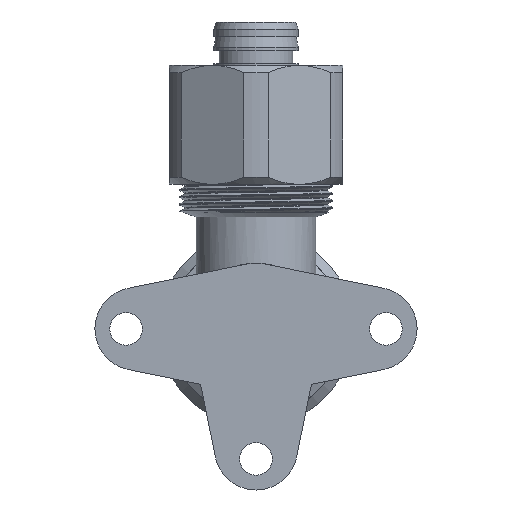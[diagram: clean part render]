
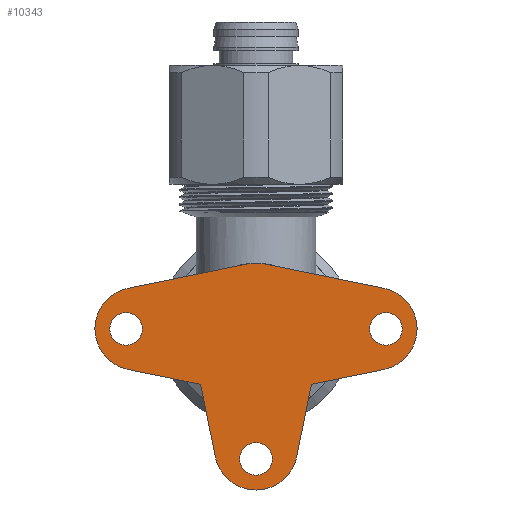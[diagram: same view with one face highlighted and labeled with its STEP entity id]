
A CAD part, front view. The second image highlights one B-rep face of the part: STEP entity #10343.
In plain terms, the highlighted planar face has unit normal (0, -1, 0).
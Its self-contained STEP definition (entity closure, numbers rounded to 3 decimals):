
#355=FACE_BOUND('',#1992,.T.);
#356=FACE_BOUND('',#1993,.T.);
#357=FACE_BOUND('',#1994,.T.);
#422=PLANE('',#11072);
#1387=FACE_OUTER_BOUND('',#1991,.T.);
#1991=EDGE_LOOP('',(#7130,#7131,#7132,#7133,#7134,#7135,#7136,#7137,#7138,
#7139));
#1992=EDGE_LOOP('',(#7140));
#1993=EDGE_LOOP('',(#7141));
#1994=EDGE_LOOP('',(#7142));
#2641=LINE('',#13772,#3325);
#2646=LINE('',#13783,#3330);
#2648=LINE('',#13787,#3332);
#2651=LINE('',#13795,#3335);
#2653=LINE('',#13799,#3337);
#2658=LINE('',#13811,#3342);
#3325=VECTOR('',#11749,10.);
#3330=VECTOR('',#11760,10.);
#3332=VECTOR('',#11764,10.);
#3335=VECTOR('',#11773,10.);
#3337=VECTOR('',#11777,10.);
#3342=VECTOR('',#11788,10.);
#4010=CIRCLE('',#11043,5.75);
#4011=CIRCLE('',#11047,5.75);
#4012=CIRCLE('',#11051,5.75);
#4020=CIRCLE('',#11063,2.25);
#4021=CIRCLE('',#11065,2.25);
#4022=CIRCLE('',#11067,2.25);
#4025=CIRCLE('',#11071,5.75);
#4305=VERTEX_POINT('',#13769);
#4306=VERTEX_POINT('',#13771);
#4308=VERTEX_POINT('',#13777);
#4309=VERTEX_POINT('',#13781);
#4310=VERTEX_POINT('',#13785);
#4311=VERTEX_POINT('',#13789);
#4312=VERTEX_POINT('',#13793);
#4313=VERTEX_POINT('',#13797);
#4314=VERTEX_POINT('',#13801);
#4317=VERTEX_POINT('',#13809);
#4324=VERTEX_POINT('',#13828);
#4325=VERTEX_POINT('',#13832);
#4326=VERTEX_POINT('',#13836);
#5410=EDGE_CURVE('',#4306,#4305,#2641,.T.);
#5414=EDGE_CURVE('',#4305,#4308,#4010,.T.);
#5416=EDGE_CURVE('',#4308,#4309,#2646,.T.);
#5418=EDGE_CURVE('',#4309,#4310,#2648,.T.);
#5420=EDGE_CURVE('',#4310,#4311,#4011,.T.);
#5422=EDGE_CURVE('',#4311,#4312,#2651,.T.);
#5424=EDGE_CURVE('',#4312,#4313,#2653,.T.);
#5426=EDGE_CURVE('',#4313,#4314,#4012,.T.);
#5430=EDGE_CURVE('',#4314,#4317,#2658,.T.);
#5438=EDGE_CURVE('',#4324,#4324,#4020,.T.);
#5440=EDGE_CURVE('',#4325,#4325,#4021,.T.);
#5442=EDGE_CURVE('',#4326,#4326,#4022,.T.);
#5446=EDGE_CURVE('',#4317,#4306,#4025,.T.);
#7130=ORIENTED_EDGE('',*,*,#5416,.T.);
#7131=ORIENTED_EDGE('',*,*,#5418,.T.);
#7132=ORIENTED_EDGE('',*,*,#5420,.T.);
#7133=ORIENTED_EDGE('',*,*,#5422,.T.);
#7134=ORIENTED_EDGE('',*,*,#5424,.T.);
#7135=ORIENTED_EDGE('',*,*,#5426,.T.);
#7136=ORIENTED_EDGE('',*,*,#5430,.T.);
#7137=ORIENTED_EDGE('',*,*,#5446,.T.);
#7138=ORIENTED_EDGE('',*,*,#5410,.T.);
#7139=ORIENTED_EDGE('',*,*,#5414,.T.);
#7140=ORIENTED_EDGE('',*,*,#5442,.T.);
#7141=ORIENTED_EDGE('',*,*,#5440,.T.);
#7142=ORIENTED_EDGE('',*,*,#5438,.T.);
#10343=ADVANCED_FACE('',(#1387,#355,#356,#357),#422,.T.);
#11043=AXIS2_PLACEMENT_3D('',#13779,#11755,#11756);
#11047=AXIS2_PLACEMENT_3D('',#13791,#11768,#11769);
#11051=AXIS2_PLACEMENT_3D('',#13803,#11781,#11782);
#11063=AXIS2_PLACEMENT_3D('',#13829,#11809,#11810);
#11065=AXIS2_PLACEMENT_3D('',#13833,#11814,#11815);
#11067=AXIS2_PLACEMENT_3D('',#13837,#11819,#11820);
#11071=AXIS2_PLACEMENT_3D('',#13842,#11828,#11829);
#11072=AXIS2_PLACEMENT_3D('',#13843,#11830,#11831);
#11749=DIRECTION('',(-0.98,0.,-0.199));
#11755=DIRECTION('center_axis',(0.,-1.,0.));
#11756=DIRECTION('ref_axis',(-0.199,0.,0.98));
#11760=DIRECTION('',(0.98,0.,-0.199));
#11764=DIRECTION('',(0.199,0.,-0.98));
#11768=DIRECTION('center_axis',(0.,-1.,0.));
#11769=DIRECTION('ref_axis',(-0.98,0.,-0.199));
#11773=DIRECTION('',(0.199,0.,0.98));
#11777=DIRECTION('',(0.98,0.,0.199));
#11781=DIRECTION('center_axis',(0.,-1.,0.));
#11782=DIRECTION('ref_axis',(0.199,0.,-0.98));
#11788=DIRECTION('',(-0.98,0.,0.199));
#11809=DIRECTION('center_axis',(0.,1.,0.));
#11810=DIRECTION('ref_axis',(-1.,0.,0.));
#11814=DIRECTION('center_axis',(0.,1.,0.));
#11815=DIRECTION('ref_axis',(-1.,0.,0.));
#11819=DIRECTION('center_axis',(0.,1.,0.));
#11820=DIRECTION('ref_axis',(-1.,0.,0.));
#11828=DIRECTION('center_axis',(0.,-1.,0.));
#11829=DIRECTION('ref_axis',(0.199,0.,0.98));
#11830=DIRECTION('center_axis',(0.,-1.,0.));
#11831=DIRECTION('ref_axis',(0.,0.,-1.));
#13769=CARTESIAN_POINT('',(-17.706,-4.366,5.635));
#13771=CARTESIAN_POINT('',(-1.146,-4.366,9.004));
#13772=CARTESIAN_POINT('',(-1.146,-4.366,9.004));
#13777=CARTESIAN_POINT('',(-17.706,-4.366,-5.635));
#13779=CARTESIAN_POINT('Origin',(-16.56,-4.366,0.));
#13781=CARTESIAN_POINT('',(-7.675,-4.366,-7.675));
#13783=CARTESIAN_POINT('',(-17.706,-4.366,-5.635));
#13785=CARTESIAN_POINT('',(-5.635,-4.366,-17.706));
#13787=CARTESIAN_POINT('',(-7.693,-4.366,-7.588));
#13789=CARTESIAN_POINT('',(5.635,-4.366,-17.706));
#13791=CARTESIAN_POINT('Origin',(0.,-4.366,-16.56));
#13793=CARTESIAN_POINT('',(7.675,-4.366,-7.675));
#13795=CARTESIAN_POINT('',(5.635,-4.366,-17.706));
#13797=CARTESIAN_POINT('',(17.706,-4.366,-5.635));
#13799=CARTESIAN_POINT('',(7.588,-4.366,-7.693));
#13801=CARTESIAN_POINT('',(17.706,-4.366,5.635));
#13803=CARTESIAN_POINT('Origin',(16.56,-4.366,0.));
#13809=CARTESIAN_POINT('',(1.146,-4.366,9.004));
#13811=CARTESIAN_POINT('',(17.706,-4.366,5.635));
#13828=CARTESIAN_POINT('',(2.25,-4.366,-18.));
#13829=CARTESIAN_POINT('Origin',(0.,-4.366,-18.));
#13832=CARTESIAN_POINT('',(20.25,-4.366,0.));
#13833=CARTESIAN_POINT('Origin',(18.,-4.366,0.));
#13836=CARTESIAN_POINT('',(-15.75,-4.366,0.));
#13837=CARTESIAN_POINT('Origin',(-18.,-4.366,0.));
#13842=CARTESIAN_POINT('Origin',(0.,-4.366,3.369));
#13843=CARTESIAN_POINT('Origin',(0.,-4.366,
-6.595));
